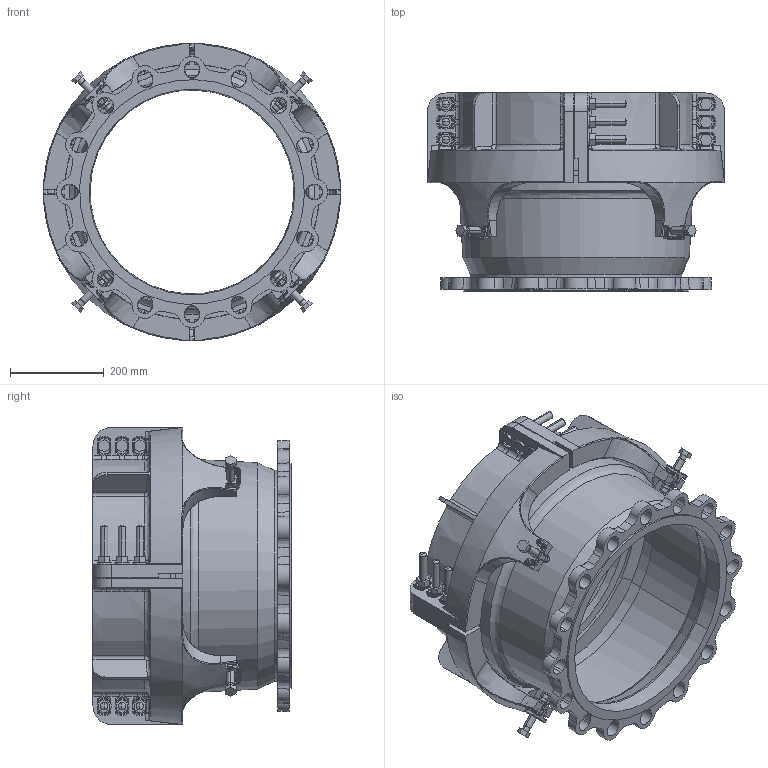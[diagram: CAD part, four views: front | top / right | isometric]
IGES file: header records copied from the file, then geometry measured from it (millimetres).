
Start section:  PTC IGES file: 450x400PN10-16FA.igs
Global section: file name: 450x400PN10-16FA.igs; native system: Pro/ENGINEER by Parametric Technology Corporation; preprocessor: 2006020; author: mfairey; organization: Unknown; date: 170505.080918; units: millimetre
Bounding box: 634.92 x 423 x 634.92 mm (x, y, z)
Surface area: 2879249.3 mm2 (no closed solid volume)
Topology: 0 solids, 0 shells, 2014 faces, 9850 edges, 9818 vertices
Faces by surface type: revolution 1197, bspline 817
